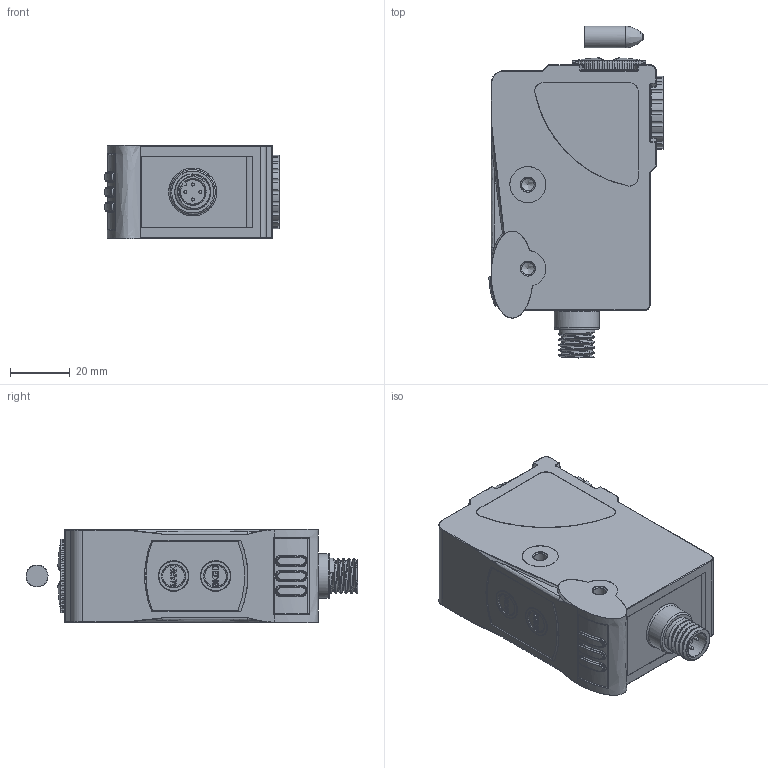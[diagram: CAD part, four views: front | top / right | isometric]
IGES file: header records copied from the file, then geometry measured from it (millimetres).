
Global section: file name: E:\lem\3DCAD_KRT21_M12.igs; native system: NX V8.5; preprocessor: SIEMENS PLM Software NX 8.5; date: 20150306.121458; units: millimetre
Bounding box: 58.08 x 110.74 x 31.2 mm (x, y, z)
Surface area: 21397.1 mm2 (no closed solid volume)
Topology: 0 solids, 0 shells, 750 faces, 4676 edges, 4583 vertices
Faces by surface type: bspline 750
